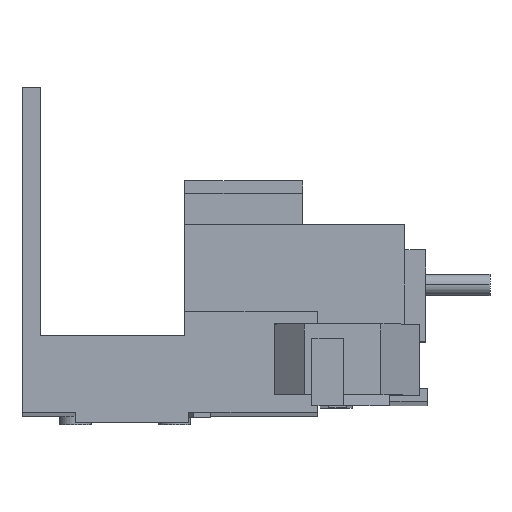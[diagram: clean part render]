
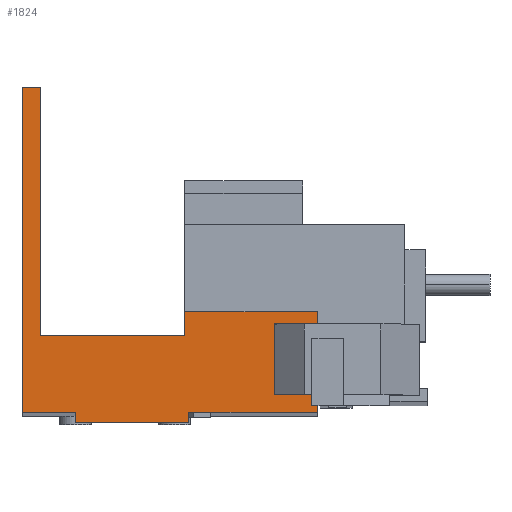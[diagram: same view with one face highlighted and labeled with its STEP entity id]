
A CAD part, front view. The second image highlights one B-rep face of the part: STEP entity #1824.
In plain terms, the highlighted planar face has unit normal (0, -1, 0.002).
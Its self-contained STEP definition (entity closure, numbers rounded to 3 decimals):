
#7 = CARTESIAN_POINT ( 'NONE',  ( 2.55, -32.98, 9.819 ) ) ;
#8 = DIRECTION ( 'NONE',  ( 1., 0., 0. ) ) ;
#63 = CARTESIAN_POINT ( 'NONE',  ( 0., -33.075, -35.931 ) ) ;
#66 = CARTESIAN_POINT ( 'NONE',  ( 23.5, -33.075, -35.931 ) ) ;
#69 = CARTESIAN_POINT ( 'NONE',  ( 7.5, -33.075, -35.931 ) ) ;
#81 = CARTESIAN_POINT ( 'NONE',  ( 41.6, -33.046, -21.831 ) ) ;
#86 = CARTESIAN_POINT ( 'NONE',  ( 41.6, -33.075, -35.931 ) ) ;
#128 = CARTESIAN_POINT ( 'NONE',  ( 0., -32.98, 9.819 ) ) ;
#129 = CARTESIAN_POINT ( 'NONE',  ( 2.55, -32.98, 9.819 ) ) ;
#151 = CARTESIAN_POINT ( 'NONE',  ( 22.92, -33.053, -25.181 ) ) ;
#152 = CARTESIAN_POINT ( 'NONE',  ( 2.55, -33.053, -25.181 ) ) ;
#156 = CARTESIAN_POINT ( 'NONE',  ( 7.5, -33.078, -37.431 ) ) ;
#166 = CARTESIAN_POINT ( 'NONE',  ( 22.92, -33.046, -21.831 ) ) ;
#322 = CARTESIAN_POINT ( 'NONE',  ( 23.5, -33.078, -37.431 ) ) ;
#674 = EDGE_CURVE ( 'NONE', #1087, #1085, #4716, .T. ) ;
#869 = VERTEX_POINT ( 'NONE', #63 ) ;
#871 = VERTEX_POINT ( 'NONE', #66 ) ;
#884 = VERTEX_POINT ( 'NONE', #69 ) ;
#934 = VERTEX_POINT ( 'NONE', #81 ) ;
#958 = VERTEX_POINT ( 'NONE', #86 ) ;
#1085 = VERTEX_POINT ( 'NONE', #129 ) ;
#1087 = VERTEX_POINT ( 'NONE', #128 ) ;
#1133 = VERTEX_POINT ( 'NONE', #152 ) ;
#1142 = VERTEX_POINT ( 'NONE', #156 ) ;
#1147 = VERTEX_POINT ( 'NONE', #151 ) ;
#1160 = VERTEX_POINT ( 'NONE', #166 ) ;
#1633 = VERTEX_POINT ( 'NONE', #322 ) ;
#1824 = ADVANCED_FACE ( 'NONE', ( #5007 ), #4193, .F. ) ;
#1923 = ORIENTED_EDGE ( 'NONE', *, *, #5462, .F. ) ;
#1927 = ORIENTED_EDGE ( 'NONE', *, *, #5450, .F. ) ;
#1930 = ORIENTED_EDGE ( 'NONE', *, *, #674, .F. ) ;
#1934 = ORIENTED_EDGE ( 'NONE', *, *, #5202, .F. ) ;
#1939 = ORIENTED_EDGE ( 'NONE', *, *, #5170, .F. ) ;
#1979 = ORIENTED_EDGE ( 'NONE', *, *, #5423, .F. ) ;
#2051 = ORIENTED_EDGE ( 'NONE', *, *, #5089, .F. ) ;
#2072 = ORIENTED_EDGE ( 'NONE', *, *, #5265, .F. ) ;
#2107 = ORIENTED_EDGE ( 'NONE', *, *, #5468, .F. ) ;
#2128 = ORIENTED_EDGE ( 'NONE', *, *, #5410, .T. ) ;
#2146 = ORIENTED_EDGE ( 'NONE', *, *, #5369, .T. ) ;
#2158 = ORIENTED_EDGE ( 'NONE', *, *, #5209, .F. ) ;
#2250 = LINE ( 'NONE', #3265, #2254 ) ;
#2254 = VECTOR ( 'NONE', #3273, 1000. ) ;
#2340 = LINE ( 'NONE', #3298, #2346 ) ;
#2346 = VECTOR ( 'NONE', #3293, 1000. ) ;
#2399 = LINE ( 'NONE', #3019, #2407 ) ;
#2407 = VECTOR ( 'NONE', #3016, 1000. ) ;
#2426 = LINE ( 'NONE', #3202, #2436 ) ;
#2436 = VECTOR ( 'NONE', #3197, 1000. ) ;
#2656 = LINE ( 'NONE', #3422, #2660 ) ;
#2660 = VECTOR ( 'NONE', #3420, 1000. ) ;
#2711 = AXIS2_PLACEMENT_3D ( 'NONE', #4196, #4191, #4200 ) ;
#3016 = DIRECTION ( 'NONE',  ( 0., -0.002, -1. ) ) ;
#3019 = CARTESIAN_POINT ( 'NONE',  ( 41.6, -33.075, -35.931 ) ) ;
#3197 = DIRECTION ( 'NONE',  ( -1., 0., 0. ) ) ;
#3202 = CARTESIAN_POINT ( 'NONE',  ( 0., -33.075, -35.931 ) ) ;
#3265 = CARTESIAN_POINT ( 'NONE',  ( 0., -32.98, 9.819 ) ) ;
#3273 = DIRECTION ( 'NONE',  ( 0., 0.002, 1. ) ) ;
#3293 = DIRECTION ( 'NONE',  ( 1., 0., 0. ) ) ;
#3298 = CARTESIAN_POINT ( 'NONE',  ( 41.6, -33.046, -21.831 ) ) ;
#3420 = DIRECTION ( 'NONE',  ( 0., 0.002, 1. ) ) ;
#3422 = CARTESIAN_POINT ( 'NONE',  ( 22.92, -33.046, -21.831 ) ) ;
#3648 = DIRECTION ( 'NONE',  ( 1., 0., 0. ) ) ;
#3652 = CARTESIAN_POINT ( 'NONE',  ( 7.5, -33.078, -37.431 ) ) ;
#3735 = DIRECTION ( 'NONE',  ( 0., 0.002, 1. ) ) ;
#3740 = CARTESIAN_POINT ( 'NONE',  ( 23.5, -33.078, -37.431 ) ) ;
#3762 = DIRECTION ( 'NONE',  ( -1., 0., 0. ) ) ;
#3769 = CARTESIAN_POINT ( 'NONE',  ( 0., -33.075, -35.931 ) ) ;
#3828 = DIRECTION ( 'NONE',  ( 0., -0.002, -1. ) ) ;
#3833 = CARTESIAN_POINT ( 'NONE',  ( 2.55, -33.072, -34.474 ) ) ;
#3867 = CARTESIAN_POINT ( 'NONE',  ( 1.75, -33.053, -25.181 ) ) ;
#3868 = DIRECTION ( 'NONE',  ( 1., 0., 0. ) ) ;
#3875 = DIRECTION ( 'NONE',  ( 0., 0.002, 1. ) ) ;
#3877 = CARTESIAN_POINT ( 'NONE',  ( 7.5, -33.078, -37.431 ) ) ;
#4191 = DIRECTION ( 'NONE',  ( 0., 1., -0.002 ) ) ;
#4193 = PLANE ( 'NONE',  #2711 ) ;
#4196 = CARTESIAN_POINT ( 'NONE',  ( 0., -33.075, -35.931 ) ) ;
#4200 = DIRECTION ( 'NONE',  ( 1., 0., 0. ) ) ;
#4290 = LINE ( 'NONE', #3867, #4293 ) ;
#4293 = VECTOR ( 'NONE', #3868, 1000. ) ;
#4333 = LINE ( 'NONE', #3877, #4335 ) ;
#4335 = VECTOR ( 'NONE', #3875, 1000. ) ;
#4368 = LINE ( 'NONE', #3769, #4487 ) ;
#4382 = LINE ( 'NONE', #3652, #4384 ) ;
#4384 = VECTOR ( 'NONE', #3648, 1000. ) ;
#4454 = LINE ( 'NONE', #3740, #4456 ) ;
#4456 = VECTOR ( 'NONE', #3735, 1000. ) ;
#4487 = VECTOR ( 'NONE', #3762, 1000. ) ;
#4531 = LINE ( 'NONE', #3833, #4533 ) ;
#4533 = VECTOR ( 'NONE', #3828, 1000. ) ;
#4716 = LINE ( 'NONE', #7, #4719 ) ;
#4719 = VECTOR ( 'NONE', #8, 1000. ) ;
#4754 = EDGE_LOOP ( 'NONE', ( #1923, #1927, #1930, #1934, #1939, #2107, #2146, #2128, #1979, #2051, #2158, #2072 ) ) ;
#5007 = FACE_OUTER_BOUND ( 'NONE', #4754, .T. ) ;
#5089 = EDGE_CURVE ( 'NONE', #934, #958, #2399, .T. ) ;
#5170 = EDGE_CURVE ( 'NONE', #884, #869, #2426, .T. ) ;
#5202 = EDGE_CURVE ( 'NONE', #869, #1087, #2250, .T. ) ;
#5209 = EDGE_CURVE ( 'NONE', #1160, #934, #2340, .T. ) ;
#5265 = EDGE_CURVE ( 'NONE', #1147, #1160, #2656, .T. ) ;
#5369 = EDGE_CURVE ( 'NONE', #1142, #1633, #4382, .T. ) ;
#5410 = EDGE_CURVE ( 'NONE', #1633, #871, #4454, .T. ) ;
#5423 = EDGE_CURVE ( 'NONE', #958, #871, #4368, .T. ) ;
#5450 = EDGE_CURVE ( 'NONE', #1085, #1133, #4531, .T. ) ;
#5462 = EDGE_CURVE ( 'NONE', #1133, #1147, #4290, .T. ) ;
#5468 = EDGE_CURVE ( 'NONE', #1142, #884, #4333, .T. ) ;
